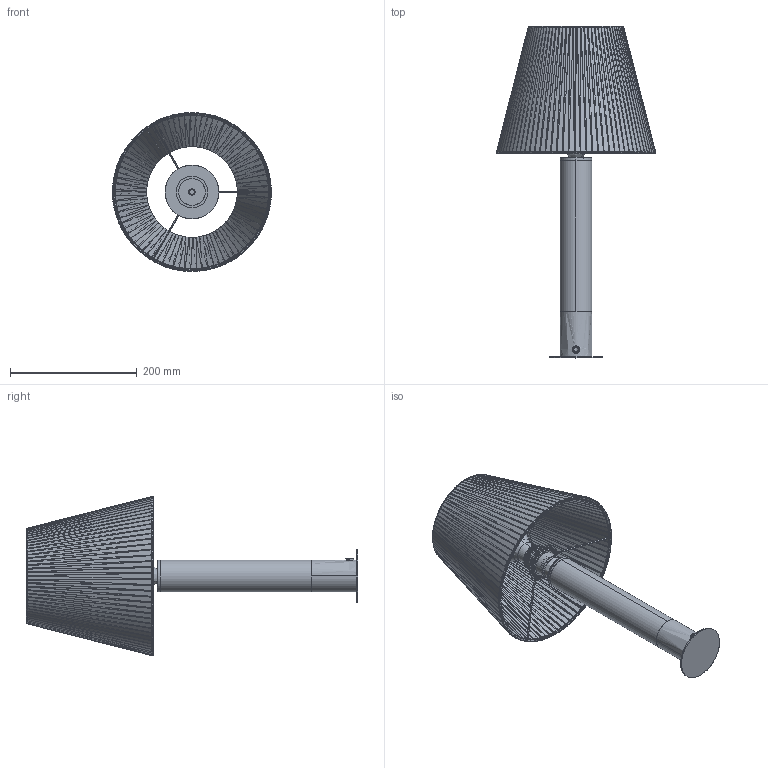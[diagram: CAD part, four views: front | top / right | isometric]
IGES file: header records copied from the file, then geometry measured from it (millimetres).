
Start section: SolidWorks IGES file using analytic representation for surfaces
Global section: file name: C:\SANTACOLE_PDM\Proyectos Catálogo\PROD-P13-027 -- BÁSICA\6_Técnico comercial\3D\M1\Basica M1.IGS; native system: SolidWorks 2019; preprocessor: SolidWorks 2019; author: ana.pascual; date: 200401.134824; units: millimetre
Bounding box: 251.35 x 524.32 x 251.39 mm (x, y, z)
Surface area: 969303.7 mm2 (no closed solid volume)
Topology: 0 solids, 0 shells, 2493 faces, 25894 edges, 25892 vertices
Faces by surface type: bspline 1384, revolution 1109
